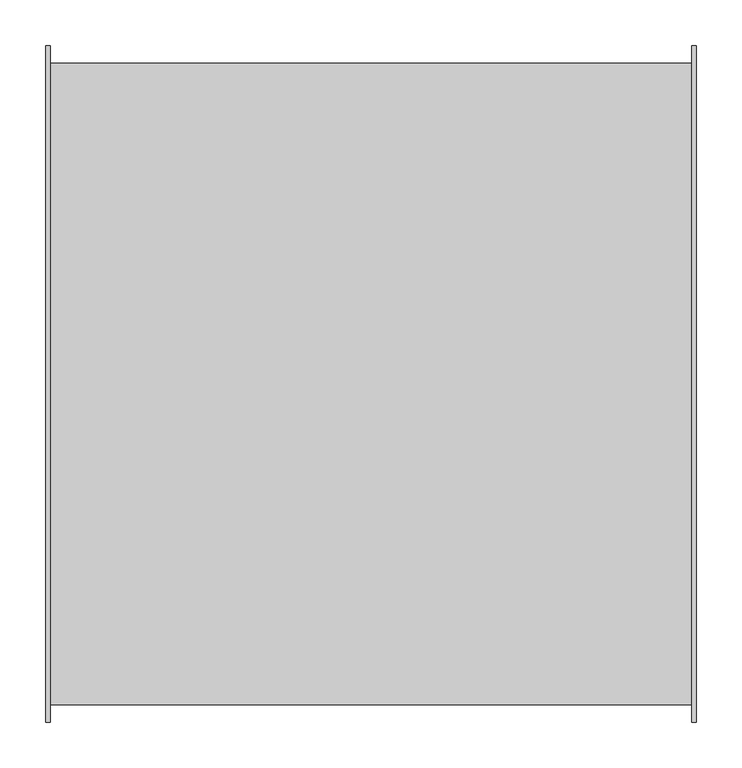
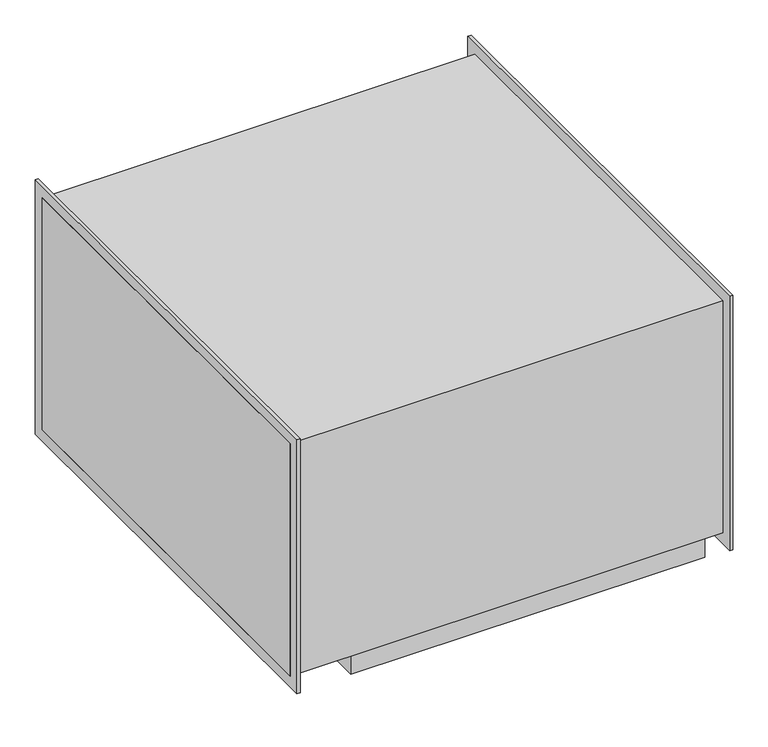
"""IFC4 building model written with IfcOpenShell, lengths in millimetres: unitary equipment geometry, VE-Wentylator-ParaForma-Harmann-DRB_EC-Nawiewny : 070/40/5100EC."""

from ifc_helpers import new_model, si_unit, point, frame, frame_2d, origin, place, context, project, spatial, polyline, circle_curve, trimmed, segment, composite_curve, outline, extrude, faceted_brep, source, transform, mapped, element, save
from ifc_brep_helpers import plane_surface, revolved_surface, advanced_brep


def unitary_equipment_9a502e59(model_context):
    return source(origin(), model_context, "Body", "SolidModel", [
        faceted_brep([(-254.4, -347.0, -234.0), (-254.4, -347.0, -200.0), (-254.4, 347.0, -200.0), (-254.4, 347.0, -234.0), (322.1, -347.0, -234.0), (322.1, 347.0, -234.0), (322.1, 347.0, -200.0), (322.1, -347.0, -200.0), (-249.4, 342.0, -234.0), (-249.4, -342.0, -234.0), (317.1, -342.0, -234.0), (317.1, 342.0, -234.0), (-249.4, 342.0, -200.0), (-249.4, -342.0, -200.0), (317.1, -342.0, -200.0), (317.1, 342.0, -200.0), (-355.0, -350.0, 200.0), (-355.0, -350.0, -200.0), (355.0, -350.0, -200.0), (355.0, -350.0, 200.0), (-355.0, 350.0, 200.0), (355.0, 350.0, 200.0), (-355.0, 350.0, -200.0), (355.0, 350.0, -200.0)], [[[0, 1, 2, 3]], [[4, 5, 6, 7]], [[1, 0, 4, 7]], [[3, 2, 6, 5]], [[0, 3, 5, 4], [8, 9, 10, 11]], [[8, 12, 13, 9]], [[10, 14, 15, 11]], [[9, 13, 14, 10]], [[12, 8, 11, 15]], [[16, 17, 18, 19]], [[20, 16, 19, 21]], [[22, 20, 21, 23]], [[13, 12, 15, 14]], [[18, 17, 22, 23], [2, 1, 7, 6]], [[17, 16, 20, 22]], [[18, 23, 21, 19]]]),
        extrude(outline(polyline([(-369.2, -219.2), (-369.2, 219.2), (369.2, 219.2), (369.2, -219.2), (-369.2, -219.2)]), holes=[polyline([(-350.0, -200.0), (350.0, -200.0), (350.0, 200.0), (-350.0, 200.0), (-350.0, -200.0)])]), frame((350.0, 0.0, 0.0), z_axis=(1.0, 0.0, 0.0), x_axis=(0.0, 1.0, 0.0)), (0.0, 0.0, 1.0), 5.0),
        extrude(outline(polyline([(-369.2, -219.2), (-369.2, 219.2), (369.2, 219.2), (369.2, -219.2), (-369.2, -219.2)]), holes=[polyline([(-350.0, -200.0), (350.0, -200.0), (350.0, 200.0), (-350.0, 200.0), (-350.0, -200.0)])]), frame((-355.0, 0.0, 0.0), z_axis=(1.0, 0.0, 0.0), x_axis=(0.0, 1.0, 0.0)), (0.0, 0.0, 1.0), 5.0),
        extrude(outline(composite_curve([segment(polyline([(77.5, 227.3), (-22.5, 227.3)]), True, "CONTINUOUS"), segment(trimmed(circle_curve(frame_2d((-22.5, 232.3)), 5.0), [point((-22.5, 227.3))], [point((-27.5, 232.3))], False, "CARTESIAN"), True, "CONTINUOUS"), segment(polyline([(-27.5, 232.3), (-27.5, 317.3)]), True, "CONTINUOUS"), segment(trimmed(circle_curve(frame_2d((-22.5, 317.3)), 5.0), [point((-27.5, 317.3))], [point((-22.5, 322.3))], False, "CARTESIAN"), True, "CONTINUOUS"), segment(polyline([(-22.5, 322.3), (77.5, 322.3)]), True, "CONTINUOUS"), segment(trimmed(circle_curve(frame_2d((77.5, 317.3)), 5.0), [point((77.5, 322.3))], [point((82.5, 317.3))], False, "CARTESIAN"), True, "CONTINUOUS"), segment(polyline([(82.5, 317.3), (82.5, 232.3)]), True, "CONTINUOUS"), segment(trimmed(circle_curve(frame_2d((77.5, 232.3)), 5.0), [point((82.5, 232.3))], [point((77.5, 227.3))], False, "CARTESIAN"), True, "CONTINUOUS")], self_intersect=False)), frame((0.0, 0.0, -249.5), z_axis=(0.0, 0.0, 1.0), x_axis=(1.0, 0.0, 0.0)), (0.0, 0.0, 1.0), 49.5),
        advanced_brep(
        [(27.5, -121.25, -215.0), (27.5, 29.25, -215.0), (27.5, -141.25, -200.0), (27.5, 49.25, -200.0)],
        [
            (0, 1, circle_curve(frame((27.5, -46.0, -215.0), z_axis=(0.0, 0.0, -1.0), x_axis=(0.0, -1.0, 0.0)), 75.25)),
            (1, 0, circle_curve(frame((27.5, -46.0, -215.0), z_axis=(0.0, 0.0, -1.0), x_axis=(0.0, 1.0, 0.0)), 75.25)),
            (2, 3, circle_curve(frame((27.5, -46.0, -200.0), z_axis=(0.0, 0.0, 1.0), x_axis=(0.0, 1.0, 0.0)), 95.25)),
            (3, 2, circle_curve(frame((27.5, -46.0, -200.0), z_axis=(0.0, 0.0, 1.0), x_axis=(0.0, -1.0, 0.0)), 95.25)),
            (3, 1),
            (0, 2),
        ],
        [
            plane_surface(frame((27.5, -46.0, -215.0), z_axis=(0.0, 0.0, -1.0), x_axis=(-1.0, 0.0, 0.0))),
            plane_surface(frame((27.5, -46.0, -200.0), z_axis=(0.0, 0.0, 1.0), x_axis=(-1.0, 0.0, 0.0))),
            revolved_surface(polyline([(27.5, -121.25, -215.0), (27.5, -141.25, -200.0)]), (27.5, -46.0, -271.4375), (0.0, 0.0, 1.0)),
            revolved_surface(polyline([(27.5, 29.25, -215.0), (27.5, 49.25, -200.0)]), (27.5, -46.0, -271.4375), (0.0, 0.0, 1.0)),
        ],
        [
            (0, [[1, 2]]),
            (1, [[3, 4]]),
            (2, [[-4, 5, -1, 6]]),
            (3, [[-3, -6, -2, -5]]),
        ],
    ),
    ])


if __name__ == "__main__":
    model = new_model("IFC4")
    model_context = context("Model", 3, world=origin())
    ifc_project = project(units=[si_unit("LENGTHUNIT", "METRE", prefix="MILLI")], contexts=[model_context])
    site = spatial("IfcSite", under=ifc_project)
    building = spatial("IfcBuilding", under=site)
    placement = place(None, origin())
    unitary_equipment_shape = unitary_equipment_9a502e59(model_context)
    element("IfcUnitaryEquipment", 1, ObjectType="VE-Wentylator-ParaForma-Harmann-DRB_EC-Nawiewny : 070/40/5100EC", at=placement, inside=building, context=model_context, shape_type="MappedRepresentation", body=[
        mapped(unitary_equipment_shape, transform((0.0, 0.0, 0.0), x_axis=(1.0, 0.0, 0.0), y_axis=(0.0, 1.0, 0.0), z_axis=(0.0, 0.0, 1.0))),
    ])
    save(model, "model.ifc")
